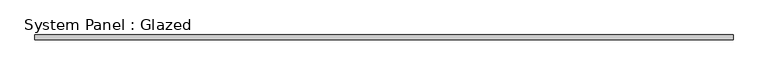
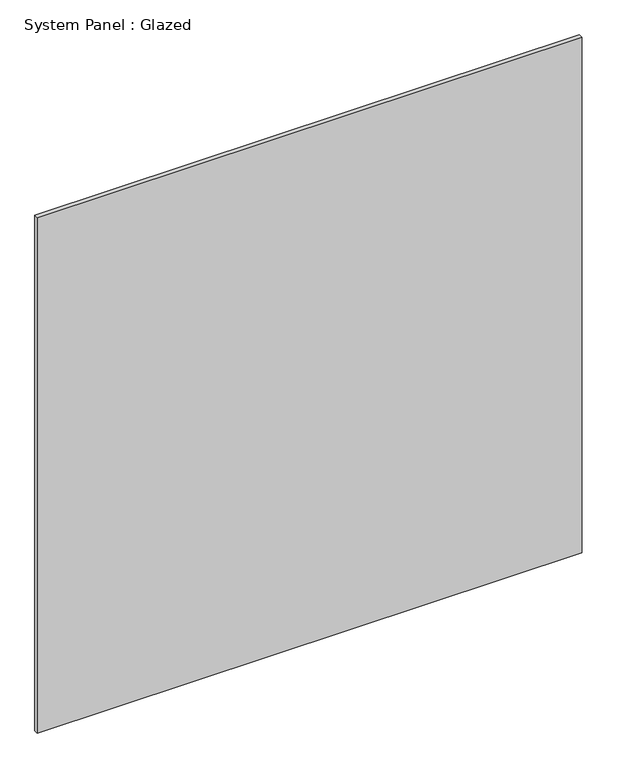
"""IFC4 building model written with IfcOpenShell, lengths in millimetres: plate geometry, System Panel : Glazed."""

from ifc_helpers import new_model, si_unit, origin, origin_with_axes, place, context, project, spatial, polyline, outline, extrude, source, transform, mapped, element, save


def system_panel_glazed_52556e8a(model_context):
    return source(origin(), model_context, "Body", "SweptSolid", [
        extrude(outline(polyline([(1952.019079, -14.0), (-1952.019079, -14.0), (-1952.019079, 14.0), (1952.019079, 14.0), (1952.019079, -14.0)])), origin_with_axes(), (0.0, 0.0, 1.0), 3903.980921),
    ])


if __name__ == "__main__":
    model = new_model("IFC4")
    model_context = context("Model", 3, world=origin())
    ifc_project = project(units=[si_unit("LENGTHUNIT", "METRE", prefix="MILLI")], contexts=[model_context])
    site = spatial("IfcSite", under=ifc_project)
    building = spatial("IfcBuilding", under=site)
    placement = place(None, origin())
    system_panel_glazed_shape = system_panel_glazed_52556e8a(model_context)
    element("IfcPlate", 1, ObjectType="System Panel : Glazed", at=placement, inside=building, context=model_context, shape_type="MappedRepresentation", body=[
        mapped(system_panel_glazed_shape, transform((0.0, 0.0, 0.0), x_axis=(1.0, 0.0, 0.0), y_axis=(0.0, 1.0, 0.0), z_axis=(0.0, 0.0, 1.0))),
    ])
    save(model, "model.ifc")
